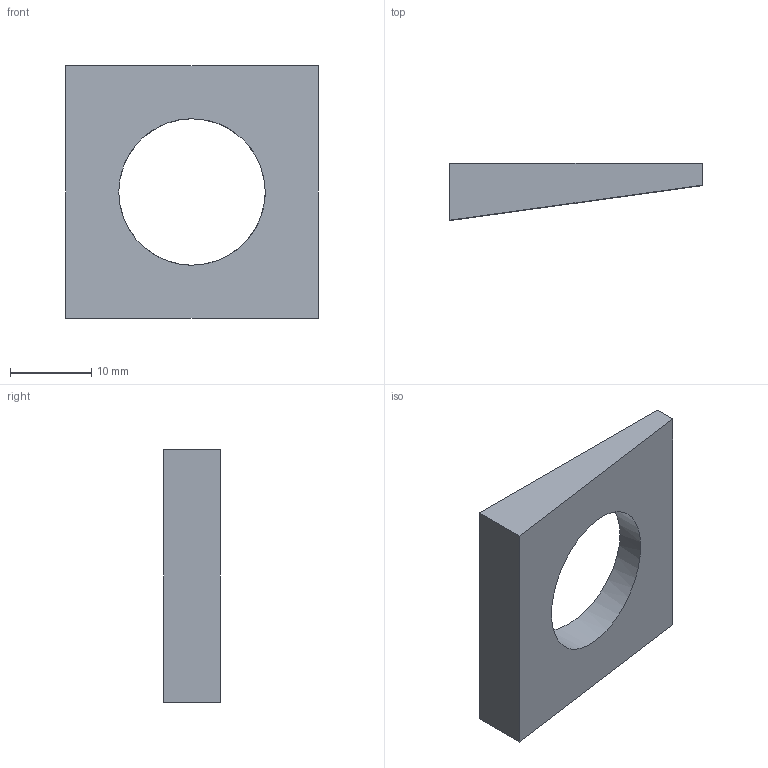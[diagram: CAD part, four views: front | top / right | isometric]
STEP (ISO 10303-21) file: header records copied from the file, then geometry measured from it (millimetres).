
FILE_DESCRIPTION(/* description */ (''),/* implementation_level */ '2;1');
FILE_NAME(/* name */ 'C:\Users\D\Documents\Inventor\HP\JIS\締結部品\座金\テーパ座金8°\tw8-m16.stp',/* time_stamp */ '2024-09-27T15:46:16+09:00',/* author */ ('D'),/* organization */ (''),/* preprocessor_version */ 'ST-DEVELOPER v18',/* originating_system */ 'Autodesk Inventor 2020',/* authorisation */ '');
FILE_SCHEMA (('AUTOMOTIVE_DESIGN { 1 0 10303 214 3 1 1 }'));
Length unit declared in the file: millimetre
Products named in the file (1): tw5-m5
Bounding box: 31 x 7 x 31 mm (x, y, z)
Volume: 3421.6 mm3; surface area: 2294.2 mm2
Topology: 1 solids, 1 shells, 7 faces, 16 edges, 11 vertices
Faces by surface type: plane 6, cylinder 1
Full cylindrical faces by diameter (mm): 18 x1
Entity records: 246 total; most frequent: DIRECTION 35, CARTESIAN_POINT 35, ORIENTED_EDGE 32, EDGE_CURVE 16, LINE 13, VECTOR 13, VERTEX_POINT 11, AXIS2_PLACEMENT_3D 11
